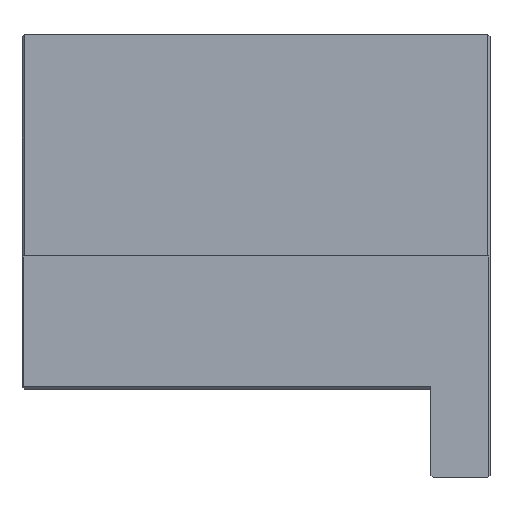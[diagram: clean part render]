
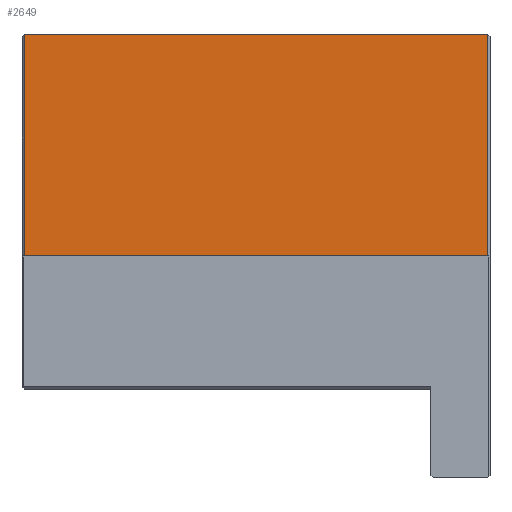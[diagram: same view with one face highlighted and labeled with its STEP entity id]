
A CAD part, front view. The second image highlights one B-rep face of the part: STEP entity #2649.
In plain terms, the highlighted planar face has unit normal (0, -1, 0).
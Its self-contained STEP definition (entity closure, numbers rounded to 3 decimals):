
#229 = VECTOR ( 'NONE', #4788, 1000. ) ;
#463 = VECTOR ( 'NONE', #2415, 1000. ) ;
#834 = VERTEX_POINT ( 'NONE', #4476 ) ;
#995 = ORIENTED_EDGE ( 'NONE', *, *, #1792, .T. ) ;
#1218 = CARTESIAN_POINT ( 'NONE',  ( -48., -47.5, 0. ) ) ;
#1235 = VERTEX_POINT ( 'NONE', #4675 ) ;
#1313 = DIRECTION ( 'NONE',  ( 0., 1., 0. ) ) ;
#1480 = CARTESIAN_POINT ( 'NONE',  ( -46.5, -47.5, 45. ) ) ;
#1554 = LINE ( 'NONE', #3044, #2589 ) ;
#1620 = EDGE_CURVE ( 'NONE', #4771, #834, #4276, .T. ) ;
#1761 = PLANE ( 'NONE',  #4088 ) ;
#1792 = EDGE_CURVE ( 'NONE', #834, #2373, #1554, .T. ) ;
#1816 = EDGE_LOOP ( 'NONE', ( #1860, #995, #2097, #3978 ) ) ;
#1860 = ORIENTED_EDGE ( 'NONE', *, *, #1620, .T. ) ;
#1862 = DIRECTION ( 'NONE',  ( 0., 0., 1. ) ) ;
#2097 = ORIENTED_EDGE ( 'NONE', *, *, #2485, .F. ) ;
#2229 = CARTESIAN_POINT ( 'NONE',  ( -48., -47.5, 0. ) ) ;
#2344 = CARTESIAN_POINT ( 'NONE',  ( 46., -47.5, 45. ) ) ;
#2373 = VERTEX_POINT ( 'NONE', #2344 ) ;
#2415 = DIRECTION ( 'NONE',  ( 1., 0., 0. ) ) ;
#2444 = DIRECTION ( 'NONE',  ( 0., 0., -1. ) ) ;
#2485 = EDGE_CURVE ( 'NONE', #1235, #2373, #4381, .T. ) ;
#2575 = FACE_OUTER_BOUND ( 'NONE', #1816, .T. ) ;
#2589 = VECTOR ( 'NONE', #3622, 1000. ) ;
#2649 = ADVANCED_FACE ( 'NONE', ( #2575 ), #1761, .F. ) ;
#2792 = CARTESIAN_POINT ( 'NONE',  ( -46.5, -47.5, 45. ) ) ;
#3044 = CARTESIAN_POINT ( 'NONE',  ( 46., -47.5, 45. ) ) ;
#3150 = EDGE_CURVE ( 'NONE', #1235, #4771, #3301, .T. ) ;
#3301 = LINE ( 'NONE', #2229, #4383 ) ;
#3622 = DIRECTION ( 'NONE',  ( 0., 0., 1. ) ) ;
#3978 = ORIENTED_EDGE ( 'NONE', *, *, #3150, .T. ) ;
#4088 = AXIS2_PLACEMENT_3D ( 'NONE', #1480, #1313, #1862 ) ;
#4276 = LINE ( 'NONE', #4910, #229 ) ;
#4381 = LINE ( 'NONE', #2792, #463 ) ;
#4383 = VECTOR ( 'NONE', #2444, 1000. ) ;
#4476 = CARTESIAN_POINT ( 'NONE',  ( 46., -47.5, 0. ) ) ;
#4675 = CARTESIAN_POINT ( 'NONE',  ( -48., -47.5, 45. ) ) ;
#4771 = VERTEX_POINT ( 'NONE', #1218 ) ;
#4788 = DIRECTION ( 'NONE',  ( 1., 0., 0. ) ) ;
#4910 = CARTESIAN_POINT ( 'NONE',  ( -48.5, -47.5, 0. ) ) ;
